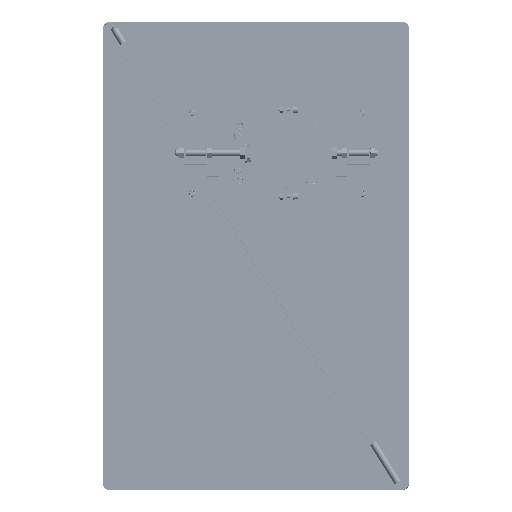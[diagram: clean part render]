
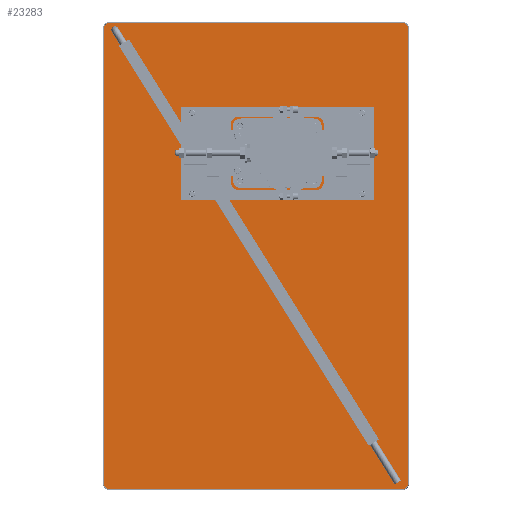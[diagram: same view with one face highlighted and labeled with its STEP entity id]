
A CAD part, top view. The second image highlights one B-rep face of the part: STEP entity #23283.
In plain terms, the highlighted planar face has unit normal (0, 0, 1).
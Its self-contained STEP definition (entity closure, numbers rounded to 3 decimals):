
#16789=FACE_OUTER_BOUND('',#45533,.T.);
#19615=PLANE('',#94480);
#23283=ADVANCED_FACE('',(#16789),#19615,.F.);
#31106=LINE('',#137820,#38150);
#31109=LINE('',#137826,#38153);
#31111=LINE('',#137830,#38155);
#31114=LINE('',#137839,#38158);
#38150=VECTOR('',#111609,1.);
#38153=VECTOR('',#111614,1.);
#38155=VECTOR('',#111618,1.);
#38158=VECTOR('',#111627,1.);
#45533=EDGE_LOOP('',(#62894,#62895,#62896,#62897,#62898,#62899,#62900,#62901));
#62894=ORIENTED_EDGE('',*,*,#81527,.T.);
#62895=ORIENTED_EDGE('',*,*,#81532,.F.);
#62896=ORIENTED_EDGE('',*,*,#81524,.T.);
#62897=ORIENTED_EDGE('',*,*,#81533,.F.);
#62898=ORIENTED_EDGE('',*,*,#81534,.T.);
#62899=ORIENTED_EDGE('',*,*,#81535,.F.);
#62900=ORIENTED_EDGE('',*,*,#81529,.T.);
#62901=ORIENTED_EDGE('',*,*,#81536,.F.);
#72213=VERTEX_POINT('',#137819);
#72214=VERTEX_POINT('',#137821);
#72215=VERTEX_POINT('',#137825);
#72216=VERTEX_POINT('',#137827);
#72217=VERTEX_POINT('',#137831);
#72218=VERTEX_POINT('',#137832);
#72219=VERTEX_POINT('',#137838);
#72220=VERTEX_POINT('',#137840);
#81524=EDGE_CURVE('',#72214,#72213,#31106,.T.);
#81527=EDGE_CURVE('',#72216,#72215,#31109,.T.);
#81529=EDGE_CURVE('',#72217,#72218,#31111,.T.);
#81532=EDGE_CURVE('',#72214,#72215,#86186,.T.);
#81533=EDGE_CURVE('',#72219,#72213,#86187,.T.);
#81534=EDGE_CURVE('',#72219,#72220,#31114,.T.);
#81535=EDGE_CURVE('',#72217,#72220,#86188,.T.);
#81536=EDGE_CURVE('',#72216,#72218,#86189,.T.);
#86186=CIRCLE('',#94476,6.5);
#86187=CIRCLE('',#94477,6.5);
#86188=CIRCLE('',#94478,6.5);
#86189=CIRCLE('',#94479,6.5);
#94476=AXIS2_PLACEMENT_3D('',#137836,#111623,#111624);
#94477=AXIS2_PLACEMENT_3D('',#137837,#111625,#111626);
#94478=AXIS2_PLACEMENT_3D('',#137841,#111628,#111629);
#94479=AXIS2_PLACEMENT_3D('',#137842,#111630,#111631);
#94480=AXIS2_PLACEMENT_3D('',#137843,#111632,#111633);
#111609=DIRECTION('',(1.,0.,0.));
#111614=DIRECTION('',(0.,-1.,0.));
#111618=DIRECTION('',(-1.,0.,0.));
#111623=DIRECTION('',(0.,0.,-1.));
#111624=DIRECTION('',(-1.,0.,0.));
#111625=DIRECTION('',(0.,0.,-1.));
#111626=DIRECTION('',(-1.,0.,0.));
#111627=DIRECTION('',(0.,1.,0.));
#111628=DIRECTION('',(0.,0.,-1.));
#111629=DIRECTION('',(-1.,0.,0.));
#111630=DIRECTION('',(0.,0.,-1.));
#111631=DIRECTION('',(-1.,0.,0.));
#111632=DIRECTION('',(0.,0.,-1.));
#111633=DIRECTION('',(-1.,0.,0.));
#137819=CARTESIAN_POINT('',(387.5,1.,1.));
#137820=CARTESIAN_POINT('',(197.5,1.,1.));
#137821=CARTESIAN_POINT('',(7.5,1.,1.));
#137825=CARTESIAN_POINT('',(1.,7.5,1.));
#137826=CARTESIAN_POINT('',(1.,302.5,1.));
#137827=CARTESIAN_POINT('',(1.,597.5,1.));
#137830=CARTESIAN_POINT('',(197.5,604.,1.));
#137831=CARTESIAN_POINT('',(387.5,604.,1.));
#137832=CARTESIAN_POINT('',(7.5,604.,1.));
#137836=CARTESIAN_POINT('',(7.5,7.5,1.));
#137837=CARTESIAN_POINT('',(387.5,7.5,1.));
#137838=CARTESIAN_POINT('',(394.,7.5,1.));
#137839=CARTESIAN_POINT('',(394.,302.5,1.));
#137840=CARTESIAN_POINT('',(394.,597.5,1.));
#137841=CARTESIAN_POINT('',(387.5,597.5,1.));
#137842=CARTESIAN_POINT('',(7.5,597.5,1.));
#137843=CARTESIAN_POINT('',(197.5,302.5,1.));
